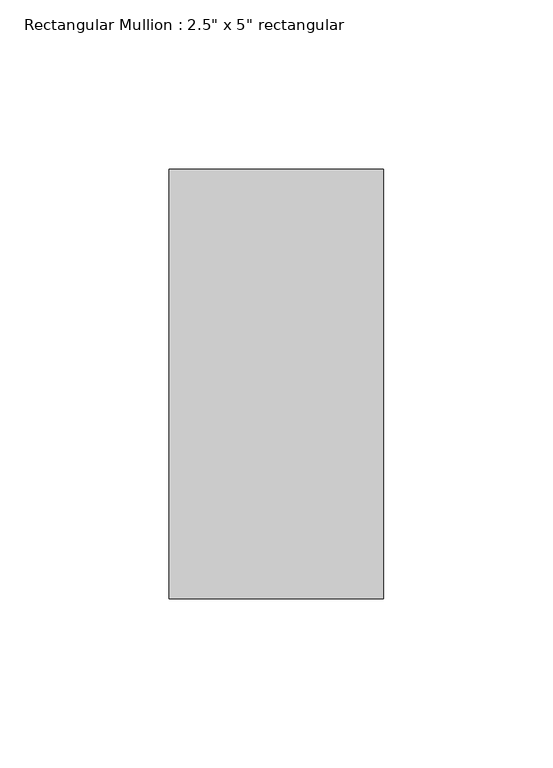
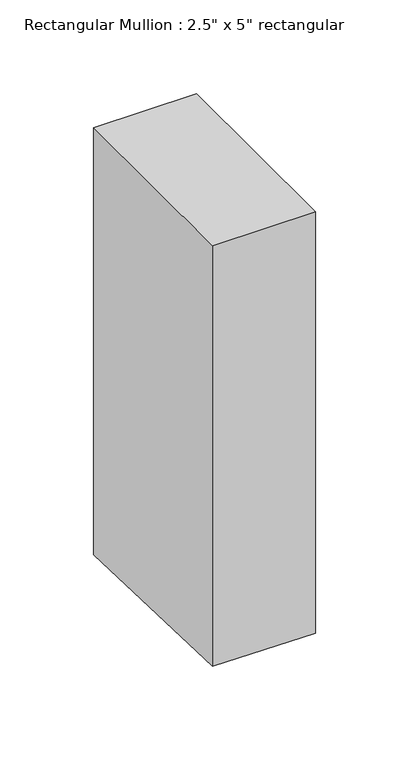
"""IFC4 building model written with IfcOpenShell, lengths in millimetres: member geometry."""

from ifc_helpers import new_model, si_unit, origin, place, context, project, spatial, faceted_brep, source, transform, mapped, element, save


def member_db942a54(model_context):
    return source(origin(), model_context, "Body", "Brep", [
        faceted_brep([(0.0, 63.5, 0.0), (-63.5, 63.5, 0.0), (-63.5, -63.5, 0.0), (0.0, -63.5, 0.0), (0.0, 63.5, -279.2128226), (-63.5, 63.5, -278.4353486), (-63.5, -63.5, -273.7932579), (0.0, -63.5, -274.570732)], [[[0, 1, 2, 3]], [[1, 0, 4, 5]], [[2, 1, 5, 6]], [[3, 2, 6, 7]], [[0, 3, 7, 4]], [[4, 7, 6, 5]]]),
    ])


if __name__ == "__main__":
    model = new_model("IFC4")
    model_context = context("Model", 3, world=origin())
    ifc_project = project(units=[si_unit("LENGTHUNIT", "METRE", prefix="MILLI")], contexts=[model_context])
    site = spatial("IfcSite", under=ifc_project)
    building = spatial("IfcBuilding", under=site)
    placement = place(None, origin())
    member_shape = member_db942a54(model_context)
    element("IfcMember", 1, ObjectType="Rectangular Mullion : 2.5\" x 5\" rectangular", at=placement, inside=building, context=model_context, shape_type="MappedRepresentation", body=[
        mapped(member_shape, transform((0.0, 0.0, 0.0), x_axis=(1.0, 0.0, 0.0), y_axis=(0.0, 1.0, 0.0), z_axis=(0.0, 0.0, 1.0))),
    ])
    save(model, "model.ifc")
